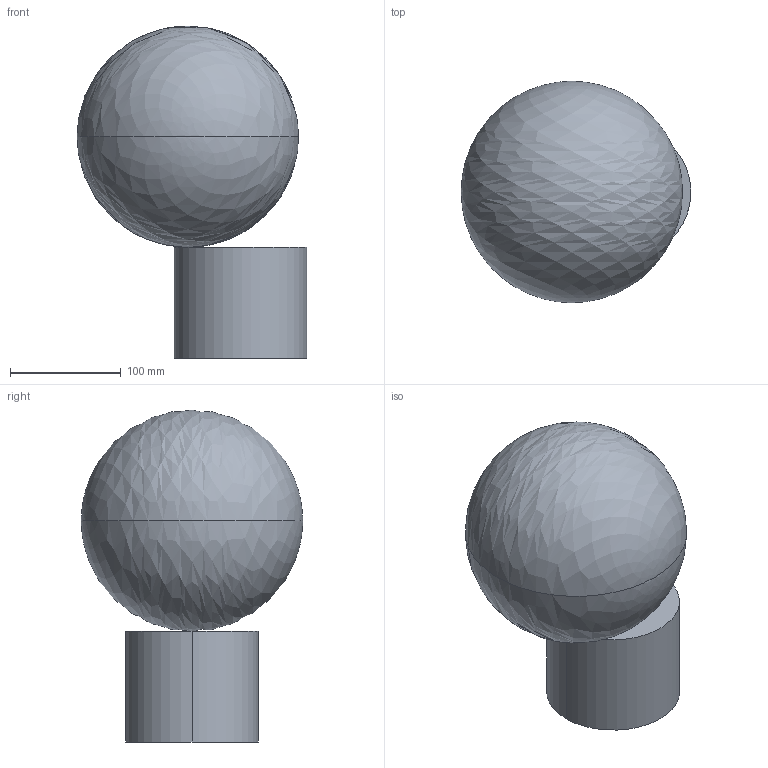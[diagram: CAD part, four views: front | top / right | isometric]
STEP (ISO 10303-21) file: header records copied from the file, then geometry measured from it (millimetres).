
FILE_DESCRIPTION(/* description */ (''),/* implementation_level */ '2;1');
FILE_NAME(/* name */ 'Tip of the Tongue',/* time_stamp */ '2015-06-02T16:46:15+01:00',/* author */ (''),/* organization */ (''),/* preprocessor_version */ 'ST-DEVELOPER v15',/* originating_system */ '',/* authorisation */ '');
FILE_SCHEMA (('CONFIG_CONTROL_DESIGN'));
Length unit declared in the file: millimetre
Products named in the file (1): Document
Bounding box: 207.5 x 200 x 300 mm (x, y, z)
Volume: 5320818.4 mm3; surface area: 186186.8 mm2
Topology: 2 solids, 2 shells, 6 faces, 12 edges, 6 vertices
Faces by surface type: bspline 4, plane 2
Entity records: 262 total; most frequent: CARTESIAN_POINT 114, ORIENTED_EDGE 16, EDGE_CURVE 8, ORGANIZATION 7, PERSON_AND_ORGANIZATION 7, ADVANCED_FACE 6, FACE_OUTER_BOUND 6, EDGE_LOOP 6
